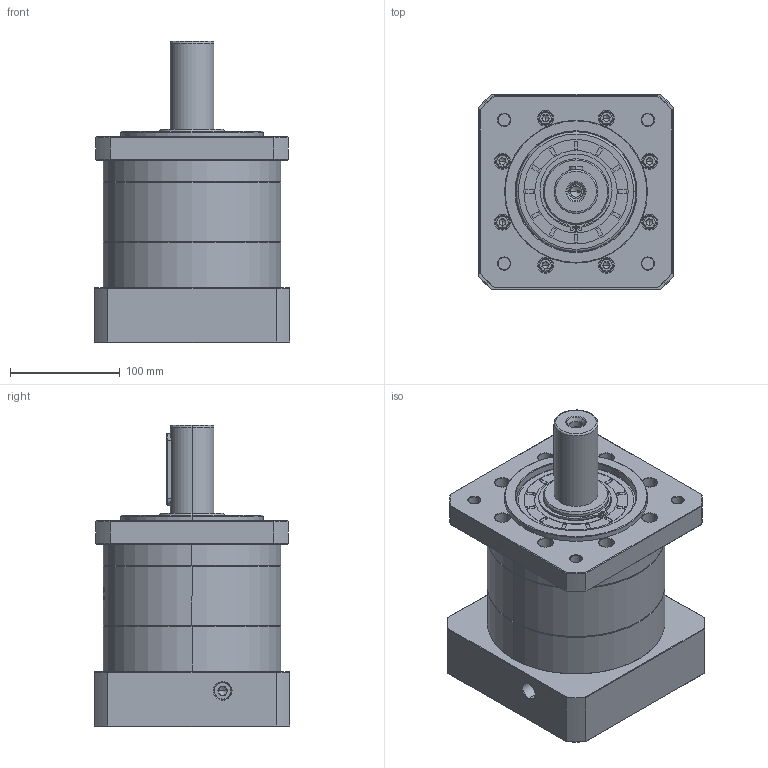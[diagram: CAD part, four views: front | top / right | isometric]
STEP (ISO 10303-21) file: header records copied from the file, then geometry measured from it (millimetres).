
FILE_DESCRIPTION (( 'STEP AP214' ), '1' );
FILE_NAME ('ZF160-D40-L1-35-114.3-200-M12.step', '2023-03-21T04:28:36', ( '' ), ( '' ), 'SwSTEP 2.0', 'SolidWorks 2016', '' );
FILE_SCHEMA (( 'AUTOMOTIVE_DESIGN' ));
Length unit declared in the file: millimetre
Products named in the file (1): ZF160-D40-L1-35-114.3-200-M12
Bounding box: 178 x 178 x 274.2 mm (x, y, z)
Volume: 4047554.1 mm3; surface area: 375002.8 mm2
Topology: 6 solids, 6 shells, 1790 faces, 4622 edges, 2944 vertices
Faces by surface type: plane 734, cylinder 451, cone 365, bspline 218, torus 22
Entity records: 100023 total; most frequent: CARTESIAN_POINT 38774, ORIENTED_EDGE 9184, DIRECTION 7984, EDGE_CURVE 4592, VERTEX_POINT 2944, AXIS2_PLACEMENT_3D 2762, LINE 2460, VECTOR 2460
